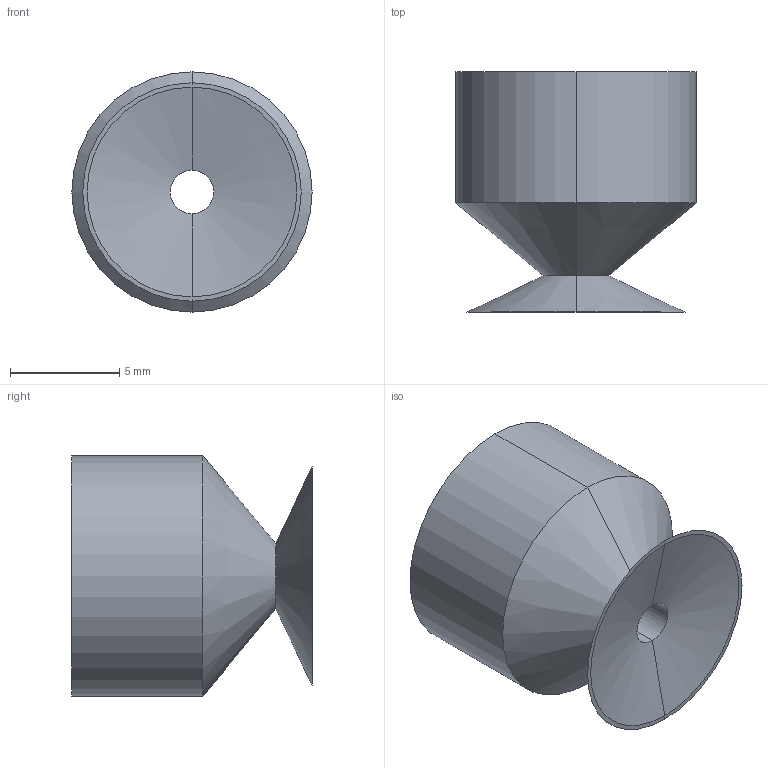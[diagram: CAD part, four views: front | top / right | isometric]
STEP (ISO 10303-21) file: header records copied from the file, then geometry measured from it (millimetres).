
FILE_DESCRIPTION (( 'STEP AP214' ), '1' );
FILE_NAME ('VSH-S10.STEP', '2019-11-30T08:20:49', ( '微软用户' ), ( '微软中国' ), 'SwSTEP 2.0', 'SolidWorks 2016', '' );
FILE_SCHEMA (( 'AUTOMOTIVE_DESIGN' ));
Length unit declared in the file: millimetre
Products named in the file (1): VSH-S10
Bounding box: 11 x 11 x 11 mm (x, y, z)
Volume: 574.9 mm3; surface area: 734.9 mm2
Topology: 1 solids, 1 shells, 18 faces, 36 edges, 22 vertices
Faces by surface type: cylinder 8, cone 6, plane 4
Entity records: 512 total; most frequent: DIRECTION 96, CARTESIAN_POINT 77, ORIENTED_EDGE 72, AXIS2_PLACEMENT_3D 41, EDGE_CURVE 36, CIRCLE 22, EDGE_LOOP 22, VERTEX_POINT 22
